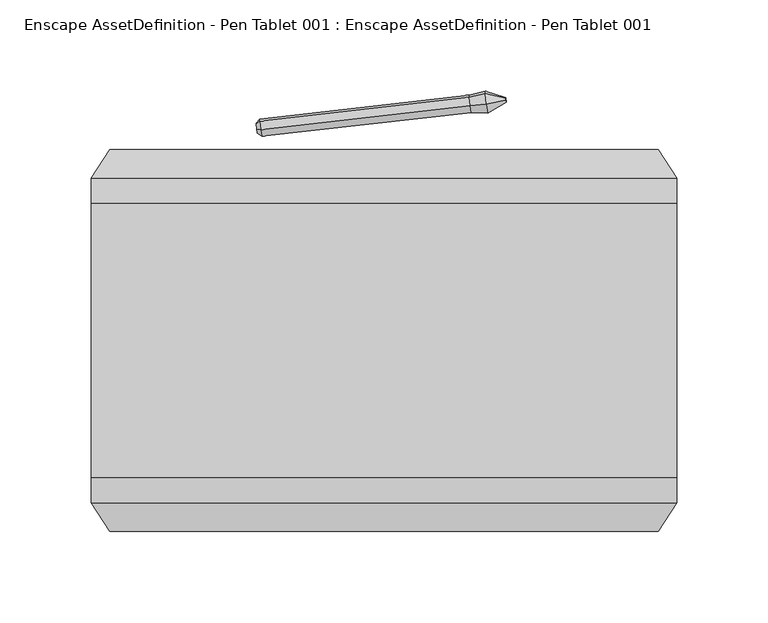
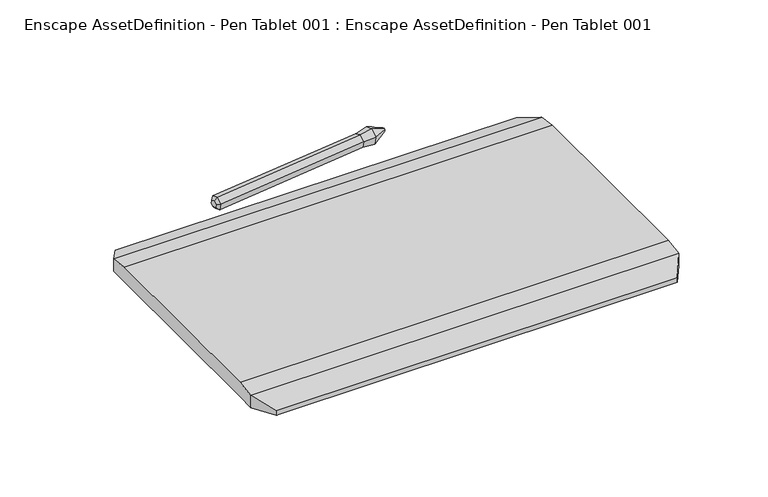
"""IFC4 building model written with IfcOpenShell, lengths in millimetres: geographic element geometry, Enscape AssetDefinition - Pen Tablet 001 : Enscape AssetDefinition - Pen Tablet 001."""

from ifc_helpers import new_model, si_unit, origin, place, context, project, spatial, triangles, source, transform, mapped, element, save


def enscape_assetdefinition_pen_tablet_001_enscape_65ee1f54(model_context):
    return source(origin(), model_context, "Body", "Tessellation", [
        triangles([(150.0889946, -104.5670003, 3.565), (-150.0889946, -104.5670003, 0.0), (150.0889946, -104.5670003, 0.0), (-150.0889946, -104.5670003, 3.565), (-160.1330127, -88.8649973, 9.8890005), (-160.1330127, -88.8649973, 0.0), (160.1330127, -75.0069996, 0.0), (160.1330127, -88.8649973, 0.0), (160.1330127, -88.8649973, 9.8890005), (-160.1330127, -75.0069996, 0.0), (160.1330127, 75.0069996, 0.0), (160.1330127, 88.8649973, 0.0), (160.1330127, 75.0069996, 11.7319999), (-160.1330127, 88.8649973, 9.8890005), (160.1330127, 88.8649973, 9.8890005), (160.1330127, -75.0069996, 11.7319999), (-160.1330127, -75.0069996, 11.7319999), (-160.1330127, 88.8649973, 0.0), (-160.1330127, 75.0069996, 0.0), (-160.1330127, 75.0069996, 11.7319999), (150.0889946, 104.5670003, 3.565), (-150.0889946, 104.5670003, 3.565), (-150.0889946, 104.5670003, 0.0), (150.0889946, 104.5670003, 0.0), (-69.2550024, 113.5590024, 5.943), (-66.9400002, 111.7419984, 6.6570002), (47.1699996, 128.4749978, 11.3610003), (56.0830003, 129.2310018, 12.718001), (46.6540019, 133.1910072, 9.7810005), (-67.4019996, 115.4549985, 9.9740006), (-67.9190011, 120.1699996, 8.3940002), (-69.5160012, 115.6539962, 7.8160001), (-69.2860052, 114.1250016, 3.1790001), (-69.8390011, 118.8819968, 4.1589996), (-69.8079983, 118.3160067, 6.9239999), (-67.9740032, 121.1729998, 3.4960002), (-69.5779978, 116.7860038, 2.2859999), (-67.5119992, 117.4609989, 0.178), (47.5780007, 125.7659971, 3.1459999), (-66.9950023, 112.7459978, 1.7590001), (47.0609992, 130.4810072, 1.565), (46.5989998, 134.1939983, 4.8829999), (55.435002, 135.1489999, 10.7349995), (55.9459992, 131.7490076, 0.424), (55.3659973, 136.4079983, 4.5869997), (56.5939974, 125.8309913, 2.4069999), (66.7269954, 131.955999, 5.4930002), (66.8679978, 130.5460015, 7.0910001), (66.6130034, 132.8720041, 6.3109997), (66.6270015, 132.6239996, 7.5190002), (66.7539968, 131.4609983, 7.9090001), (66.8539998, 130.7930067, 5.8829996), (56.6629976, 124.572002, 8.5549999), (47.6320036, 124.7629969, 8.0439999)], [[40, 39, 54], [54, 53, 28], [39, 53, 54], [39, 46, 53], [46, 47, 52], [48, 52, 47], [46, 48, 53], [46, 52, 48], [28, 53, 48], [28, 48, 51], [43, 28, 51], [29, 28, 43], [50, 51, 48], [43, 51, 50], [48, 49, 50], [48, 47, 49], [46, 44, 47], [44, 49, 47], [45, 50, 49], [45, 43, 50], [44, 45, 49], [42, 43, 45], [42, 29, 43], [41, 45, 44], [41, 42, 45], [41, 46, 39], [41, 44, 46], [38, 39, 40], [38, 41, 39], [40, 37, 38], [38, 37, 34], [38, 34, 36], [41, 36, 42], [41, 38, 36], [42, 31, 29], [42, 36, 31], [31, 35, 32], [36, 35, 31], [36, 34, 35], [35, 34, 37], [40, 33, 37], [35, 37, 33], [25, 32, 35], [35, 33, 25], [31, 32, 30], [30, 32, 25], [30, 29, 31], [54, 28, 27], [29, 27, 28], [30, 27, 29], [26, 33, 40], [26, 25, 33], [30, 25, 26], [40, 54, 26], [26, 27, 30], [26, 54, 27], [21, 12, 24], [19, 24, 12], [19, 23, 24], [19, 18, 23], [22, 23, 18], [24, 22, 21], [24, 23, 22], [21, 15, 12], [22, 15, 21], [22, 18, 14], [22, 14, 15], [18, 20, 14], [18, 19, 20], [19, 17, 20], [20, 17, 16], [17, 9, 16], [20, 16, 13], [14, 13, 15], [14, 20, 13], [12, 15, 13], [12, 13, 11], [12, 11, 19], [7, 13, 16], [7, 11, 13], [9, 7, 16], [9, 8, 7], [10, 11, 7], [10, 19, 11], [19, 10, 17], [6, 17, 10], [3, 8, 9], [7, 8, 3], [3, 10, 7], [3, 6, 10], [3, 2, 6], [6, 2, 4], [6, 4, 5], [6, 5, 17], [17, 5, 9], [3, 9, 1], [1, 2, 3], [1, 4, 2], [1, 5, 4], [1, 9, 5]]),
    ])


if __name__ == "__main__":
    model = new_model("IFC4")
    model_context = context("Model", 3, world=origin())
    ifc_project = project(units=[si_unit("LENGTHUNIT", "METRE", prefix="MILLI")], contexts=[model_context])
    site = spatial("IfcSite", under=ifc_project)
    building = spatial("IfcBuilding", under=site)
    placement = place(None, origin())
    enscape_assetdefinition_pen_tablet_001_enscape_shape = enscape_assetdefinition_pen_tablet_001_enscape_65ee1f54(model_context)
    element("IfcGeographicElement", 1, ObjectType="Enscape AssetDefinition - Pen Tablet 001 : Enscape AssetDefinition - Pen Tablet 001", at=placement, inside=building, context=model_context, shape_type="MappedRepresentation", body=[
        mapped(enscape_assetdefinition_pen_tablet_001_enscape_shape, transform((0.0, 0.0, 0.0), x_axis=(1.0, 0.0, 0.0), y_axis=(0.0, 1.0, 0.0), z_axis=(0.0, 0.0, 1.0))),
    ])
    save(model, "model.ifc")
